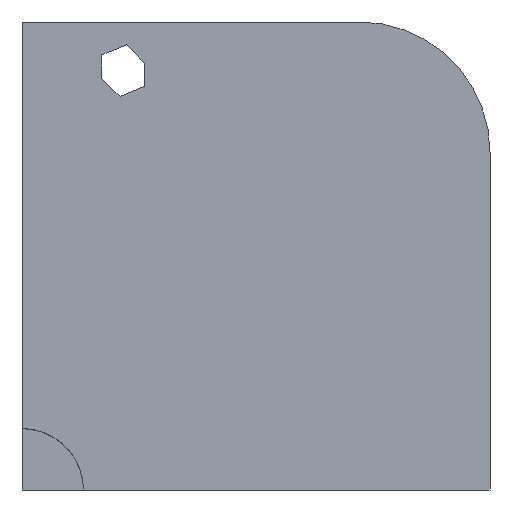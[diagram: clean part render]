
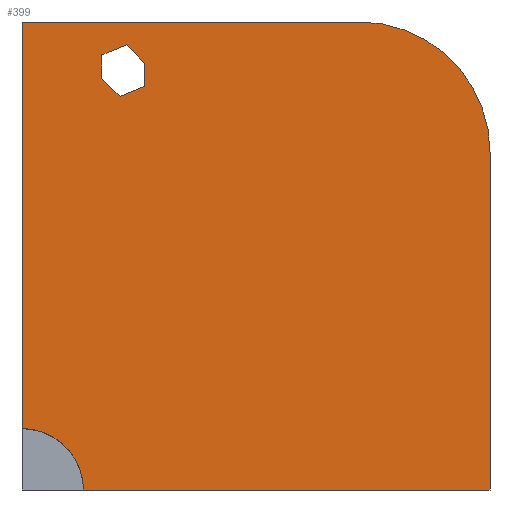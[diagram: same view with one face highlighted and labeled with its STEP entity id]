
A CAD part, left-side view. The second image highlights one B-rep face of the part: STEP entity #399.
In plain terms, the highlighted planar face has unit normal (-1, 0, 0).
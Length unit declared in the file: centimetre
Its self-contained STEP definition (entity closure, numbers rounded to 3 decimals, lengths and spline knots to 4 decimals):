
#1 = DIRECTION ( 'NONE',  ( 0., 0., -1. ) ) ;
#8 = CARTESIAN_POINT ( 'NONE',  ( 0., 868.6099, 0. ) ) ;
#28 = DIRECTION ( 'NONE',  ( -1., 0., 0. ) ) ;
#40 = VECTOR ( 'NONE', #890, 100. ) ;
#49 = DIRECTION ( 'NONE',  ( 0., 0., 1. ) ) ;
#72 = VECTOR ( 'NONE', #976, 100. ) ;
#84 = CARTESIAN_POINT ( 'NONE',  ( 0., 1000., 1000. ) ) ;
#98 = PLANE ( 'NONE',  #999 ) ;
#112 = EDGE_CURVE ( 'NONE', #826, #787, #874, .T. ) ;
#127 = VECTOR ( 'NONE', #774, 100. ) ;
#141 = ORIENTED_EDGE ( 'NONE', *, *, #545, .T. ) ;
#142 = VECTOR ( 'NONE', #1035, 100. ) ;
#153 = VERTEX_POINT ( 'NONE', #522 ) ;
#211 = VECTOR ( 'NONE', #702, 100. ) ;
#224 = VERTEX_POINT ( 'NONE', #284 ) ;
#225 = EDGE_LOOP ( 'NONE', ( #808, #295, #321, #538, #432, #541 ) ) ;
#231 = EDGE_CURVE ( 'NONE', #153, #419, #616, .T. ) ;
#269 = VECTOR ( 'NONE', #761, 100. ) ;
#284 = CARTESIAN_POINT ( 'NONE',  ( 0., 790.529, 841.2737 ) ) ;
#289 = CARTESIAN_POINT ( 'NONE',  ( 0., 1000., 1000. ) ) ;
#290 = CIRCLE ( 'NONE', #517, 131.3901 ) ;
#293 = DIRECTION ( 'NONE',  ( 0., 0.707, 0.707 ) ) ;
#295 = ORIENTED_EDGE ( 'NONE', *, *, #580, .T. ) ;
#297 = EDGE_CURVE ( 'NONE', #502, #770, #525, .T. ) ;
#306 = CARTESIAN_POINT ( 'NONE',  ( 0., 278.7818, 721.2182 ) ) ;
#321 = ORIENTED_EDGE ( 'NONE', *, *, #1107, .T. ) ;
#337 = VECTOR ( 'NONE', #293, 100. ) ;
#339 = FACE_OUTER_BOUND ( 'NONE', #698, .T. ) ;
#364 = CARTESIAN_POINT ( 'NONE',  ( 0., 829.3209, 929.7327 ) ) ;
#375 = CARTESIAN_POINT ( 'NONE',  ( 0., 776.4542, 951.093 ) ) ;
#399 = ADVANCED_FACE ( 'NONE', ( #852, #339 ), #98, .F. ) ;
#419 = VERTEX_POINT ( 'NONE', #576 ) ;
#432 = ORIENTED_EDGE ( 'NONE', *, *, #112, .T. ) ;
#442 = VERTEX_POINT ( 'NONE', #487 ) ;
#444 = VECTOR ( 'NONE', #709, 100. ) ;
#453 = CARTESIAN_POINT ( 'NONE',  ( 0., 1000., 0. ) ) ;
#457 = CARTESIAN_POINT ( 'NONE',  ( 0., 776.4542, 951.093 ) ) ;
#462 = LINE ( 'NONE', #1051, #337 ) ;
#463 = LINE ( 'NONE', #375, #444 ) ;
#465 = ORIENTED_EDGE ( 'NONE', *, *, #722, .T. ) ;
#472 = LINE ( 'NONE', #492, #1062 ) ;
#487 = CARTESIAN_POINT ( 'NONE',  ( 0., 737.6623, 862.634 ) ) ;
#492 = CARTESIAN_POINT ( 'NONE',  ( 0., 829.3209, 880.0656 ) ) ;
#502 = VERTEX_POINT ( 'NONE', #757 ) ;
#513 = CARTESIAN_POINT ( 'NONE',  ( 0., 1000., 131.3901 ) ) ;
#517 = AXIS2_PLACEMENT_3D ( 'NONE', #453, #28, #49 ) ;
#521 = CARTESIAN_POINT ( 'NONE',  ( 0., 737.6623, 862.634 ) ) ;
#522 = CARTESIAN_POINT ( 'NONE',  ( 0., 1000., 1000. ) ) ;
#525 = LINE ( 'NONE', #962, #211 ) ;
#538 = ORIENTED_EDGE ( 'NONE', *, *, #930, .T. ) ;
#541 = ORIENTED_EDGE ( 'NONE', *, *, #734, .T. ) ;
#545 = EDGE_CURVE ( 'NONE', #502, #419, #837, .T. ) ;
#576 = CARTESIAN_POINT ( 'NONE',  ( 0., 278.7818, 1000. ) ) ;
#580 = EDGE_CURVE ( 'NONE', #442, #224, #1103, .T. ) ;
#582 = LINE ( 'NONE', #767, #269 ) ;
#591 = CARTESIAN_POINT ( 'NONE',  ( 0., 737.6623, 912.3011 ) ) ;
#600 = AXIS2_PLACEMENT_3D ( 'NONE', #306, #735, #994 ) ;
#604 = ORIENTED_EDGE ( 'NONE', *, *, #646, .T. ) ;
#615 = LINE ( 'NONE', #628, #40 ) ;
#616 = LINE ( 'NONE', #623, #127 ) ;
#623 = CARTESIAN_POINT ( 'NONE',  ( 0., 1000., 1000. ) ) ;
#628 = CARTESIAN_POINT ( 'NONE',  ( 0., 737.6623, 912.3011 ) ) ;
#640 = VERTEX_POINT ( 'NONE', #8 ) ;
#646 = EDGE_CURVE ( 'NONE', #640, #770, #582, .T. ) ;
#649 = VERTEX_POINT ( 'NONE', #513 ) ;
#677 = ORIENTED_EDGE ( 'NONE', *, *, #297, .F. ) ;
#688 = DIRECTION ( 'NONE',  ( 0., 0.927, -0.375 ) ) ;
#698 = EDGE_LOOP ( 'NONE', ( #465, #936, #604, #677, #141, #1001 ) ) ;
#702 = DIRECTION ( 'NONE',  ( 0., 0., -1. ) ) ;
#709 = DIRECTION ( 'NONE',  ( 0., -0.707, -0.707 ) ) ;
#722 = EDGE_CURVE ( 'NONE', #153, #649, #1060, .T. ) ;
#725 = CARTESIAN_POINT ( 'NONE',  ( 0., 0., 0. ) ) ;
#730 = EDGE_CURVE ( 'NONE', #640, #649, #290, .T. ) ;
#734 = EDGE_CURVE ( 'NONE', #787, #1013, #463, .T. ) ;
#735 = DIRECTION ( 'NONE',  ( -1., 0., 0. ) ) ;
#757 = CARTESIAN_POINT ( 'NONE',  ( 0., 0., 721.2182 ) ) ;
#761 = DIRECTION ( 'NONE',  ( 0., -1., 0. ) ) ;
#765 = VECTOR ( 'NONE', #688, 100. ) ;
#766 = DIRECTION ( 'NONE',  ( 1., 0., 0. ) ) ;
#767 = CARTESIAN_POINT ( 'NONE',  ( 0., 1000., 0. ) ) ;
#770 = VERTEX_POINT ( 'NONE', #725 ) ;
#774 = DIRECTION ( 'NONE',  ( 0., -1., 0. ) ) ;
#785 = EDGE_CURVE ( 'NONE', #1013, #442, #615, .T. ) ;
#787 = VERTEX_POINT ( 'NONE', #457 ) ;
#808 = ORIENTED_EDGE ( 'NONE', *, *, #785, .T. ) ;
#826 = VERTEX_POINT ( 'NONE', #364 ) ;
#837 = CIRCLE ( 'NONE', #600, 278.7818 ) ;
#852 = FACE_BOUND ( 'NONE', #225, .T. ) ;
#863 = VERTEX_POINT ( 'NONE', #903 ) ;
#874 = LINE ( 'NONE', #886, #142 ) ;
#886 = CARTESIAN_POINT ( 'NONE',  ( 0., 829.3209, 929.7327 ) ) ;
#890 = DIRECTION ( 'NONE',  ( 0., 0., -1. ) ) ;
#903 = CARTESIAN_POINT ( 'NONE',  ( 0., 829.3209, 880.0656 ) ) ;
#930 = EDGE_CURVE ( 'NONE', #863, #826, #472, .T. ) ;
#936 = ORIENTED_EDGE ( 'NONE', *, *, #730, .F. ) ;
#962 = CARTESIAN_POINT ( 'NONE',  ( 0., 0., 1000. ) ) ;
#976 = DIRECTION ( 'NONE',  ( 0., 0., -1. ) ) ;
#994 = DIRECTION ( 'NONE',  ( 0., 0., -1. ) ) ;
#999 = AXIS2_PLACEMENT_3D ( 'NONE', #84, #766, #1 ) ;
#1001 = ORIENTED_EDGE ( 'NONE', *, *, #231, .F. ) ;
#1013 = VERTEX_POINT ( 'NONE', #591 ) ;
#1035 = DIRECTION ( 'NONE',  ( 0., -0.927, 0.375 ) ) ;
#1051 = CARTESIAN_POINT ( 'NONE',  ( 0., 790.529, 841.2737 ) ) ;
#1060 = LINE ( 'NONE', #289, #72 ) ;
#1062 = VECTOR ( 'NONE', #1081, 100. ) ;
#1081 = DIRECTION ( 'NONE',  ( 0., 0., 1. ) ) ;
#1103 = LINE ( 'NONE', #521, #765 ) ;
#1107 = EDGE_CURVE ( 'NONE', #224, #863, #462, .T. ) ;
